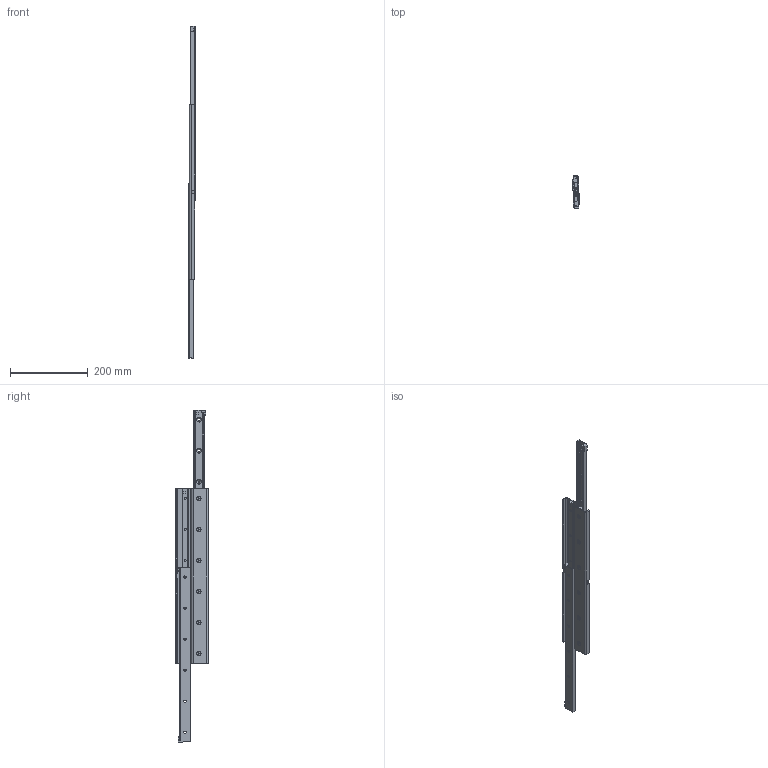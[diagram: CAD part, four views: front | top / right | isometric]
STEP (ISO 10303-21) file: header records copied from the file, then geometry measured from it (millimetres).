
FILE_DESCRIPTION (( 'STEP AP203' ), '1' );
FILE_NAME ('L1984.28D-0450.step', '2018-07-03T12:13:59', ( '' ), ( '' ), 'SwSTEP 2.0', 'SolidWorks 2017', '' );
FILE_SCHEMA (( 'CONFIG_CONTROL_DESIGN' ));
Length unit declared in the file: millimetre
Products named in the file (5): L1984.28D-0450; Part2_L1984.28D-0450; Part3_L1984.28D-0450; Part1_L1984.28D-0450; Part0_L1984.28D-0450
Assembly tree (7 placements, depth 2):
  L1984.28D-0450
    Part0_L1984.28D-0450
    Part2_L1984.28D-0450  x2
    Part1_L1984.28D-0450  x2
    Part3_L1984.28D-0450  x2
Bounding box: 17 x 84 x 856 mm (x, y, z)
Volume: 387760.9 mm3; surface area: 266788.5 mm2
Topology: 7 solids, 7 shells, 452 faces, 1174 edges, 780 vertices
Faces by surface type: plane 310, cylinder 94, cone 48
Entity records: 9936 total; most frequent: CARTESIAN_POINT 1630, DIRECTION 1601, ORIENTED_EDGE 1578, EDGE_CURVE 789, VECTOR 611, LINE 611, VERTEX_POINT 524, AXIS2_PLACEMENT_3D 495
